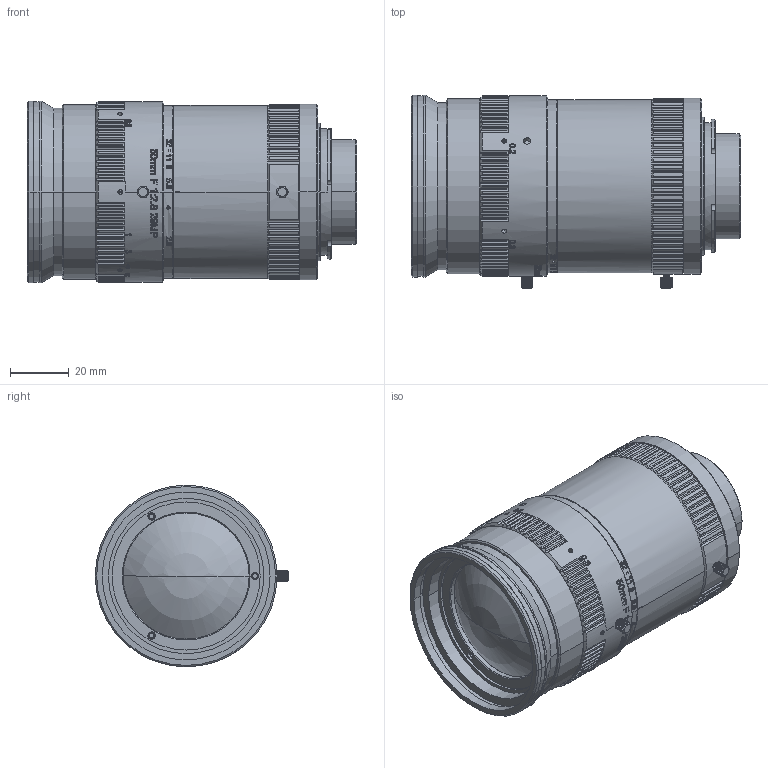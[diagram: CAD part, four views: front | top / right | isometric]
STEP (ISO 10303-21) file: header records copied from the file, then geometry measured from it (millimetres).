
FILE_DESCRIPTION((''),'2;1');
FILE_NAME('OPT-F5028-29M-V2_0','2019-09-12T11:01:19',('dcsongs'),(''),'CREO PARAMETRIC BY PTC INC, 2018400','CREO PARAMETRIC BY PTC INC, 2018400','');
FILE_SCHEMA(('AUTOMOTIVE_DESIGN { 1 0 10303 214 1 1 1 1 }'));
Length unit declared in the file: millimetre
Products named in the file (1): OPT-F5028-29M-V2_0
Bounding box: 112.22 x 66 x 62 mm (x, y, z)
Volume: 269247.2 mm3; surface area: 38226.2 mm2
Topology: 1 solids, 6 shells, 2017 faces, 5643 edges, 3715 vertices
Faces by surface type: plane 681, bspline 552, cylinder 491, cone 262, extrusion 17, sphere 12, torus 2
Entity records: 83773 total; most frequent: CARTESIAN_POINT 36112, ORIENTED_EDGE 11250, DIRECTION 7954, EDGE_CURVE 5625, VERTEX_POINT 3714, AXIS2_PLACEMENT_3D 2894, VECTOR 2166, LINE 2149
